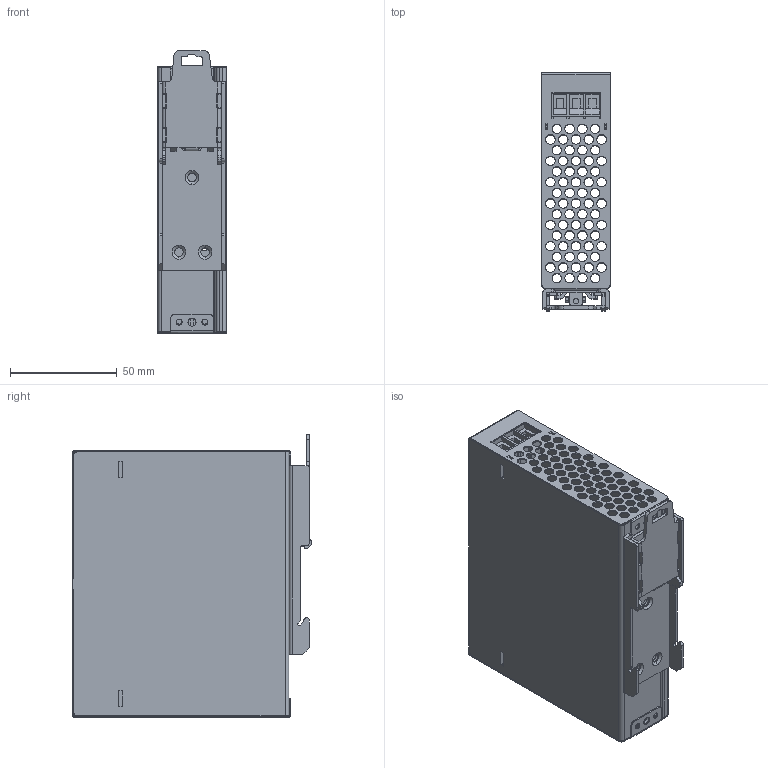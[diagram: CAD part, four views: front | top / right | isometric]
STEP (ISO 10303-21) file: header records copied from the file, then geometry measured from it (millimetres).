
FILE_DESCRIPTION (( 'STEP AP214' ), '1' );
FILE_NAME ('75W开关电源圆孔20240407.STEP', '2024-04-08T01:06:41', ( '微软用户' ), ( '微软中国' ), 'SwSTEP 2.0', 'SolidWorks 2020', '' );
FILE_SCHEMA (( 'AUTOMOTIVE_DESIGN' ));
Length unit declared in the file: millimetre
Products named in the file (10): 楷嫖; 75W埴謂厙欶20240407; 75W羲壽萇埭埴謂20240407; 苤縐諶; 縐裔2024.prt.stp; 4弇傷赽; 75W-B啣20240407; 75W-A啣20240407; 3弇傷赽; 縐諶2024.prt.stp
Assembly tree (9 placements, depth 3):
  75W羲壽萇埭埴謂20240407
    75W-B啣20240407
    75W埴謂厙欶20240407
    75W-A啣20240407
    3弇傷赽
    4弇傷赽
    楷嫖
    苤縐諶
      縐諶2024.prt.stp
      縐裔2024.prt.stp
Bounding box: 32 x 111.91 x 132.51 mm (x, y, z)
Volume: 67726.9 mm3; surface area: 99634.7 mm2
Topology: 8 solids, 8 shells, 1476 faces, 4187 edges, 2715 vertices
Faces by surface type: plane 743, cylinder 707, bspline 16, cone 6, sphere 2, torus 2
Entity records: 49545 total; most frequent: CARTESIAN_POINT 8907, DIRECTION 8521, ORIENTED_EDGE 8366, EDGE_CURVE 4183, AXIS2_PLACEMENT_3D 2937, VERTEX_POINT 2713, VECTOR 2647, LINE 2647
